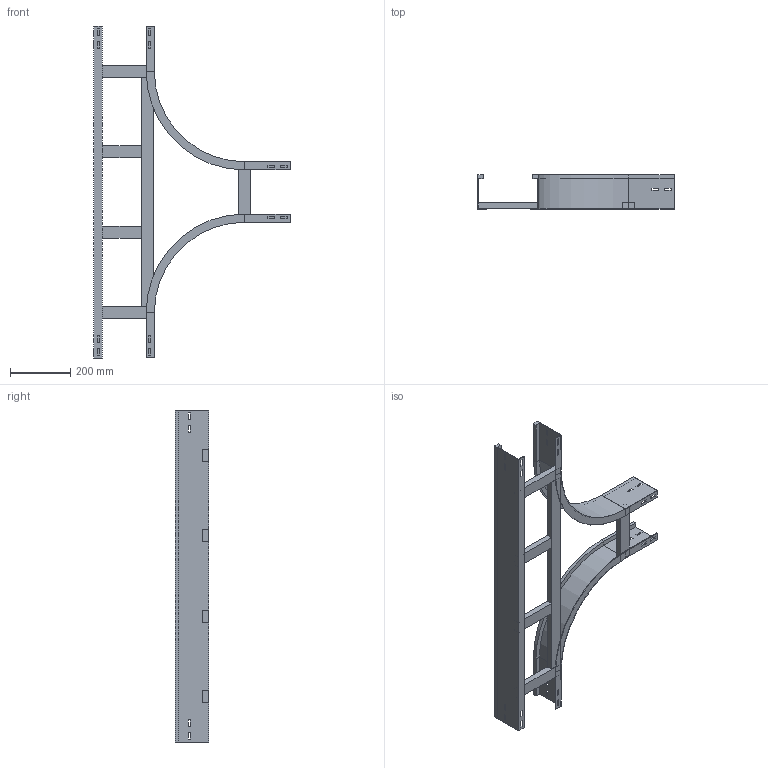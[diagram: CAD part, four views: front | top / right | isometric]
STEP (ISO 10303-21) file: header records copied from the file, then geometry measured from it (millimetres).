
FILE_DESCRIPTION (( 'STEP AP214' ), '1' );
FILE_NAME ('A2_15B3J200.step', '2025-02-21T15:51:21', ( '' ), ( '' ), 'SwSTEP 2.0', 'SolidWorks 2023', '' );
FILE_SCHEMA (( 'AUTOMOTIVE_DESIGN' ));
Length unit declared in the file: millimetre
Products named in the file (6): A2_LONGH.INTERNO 90°_H112.5_R300; A2_TRAVERSINO_LONG._R300+200; A2_15B3J200; TRAVERSINO_INTERMEDIO_R300+200; TRAVERSINO_200; A2_LONGH.RETT_H112.5_R300+200
Assembly tree (9 placements, depth 2):
  A2_15B3J200
    A2_LONGH.INTERNO 90°_H112.5_R300  x2
    A2_LONGH.RETT_H112.5_R300+200
    TRAVERSINO_200  x3
    A2_TRAVERSINO_LONG._R300+200
    TRAVERSINO_INTERMEDIO_R300+200  x2
Bounding box: 650 x 112.5 x 1100 mm (x, y, z)
Volume: 2579046.5 mm3; surface area: 1035165.7 mm2
Topology: 9 solids, 9 shells, 194 faces, 496 edges, 320 vertices
Faces by surface type: plane 186, cylinder 8
Entity records: 3815 total; most frequent: CARTESIAN_POINT 638, ORIENTED_EDGE 616, DIRECTION 576, EDGE_CURVE 308, VECTOR 300, LINE 300, VERTEX_POINT 200, EDGE_LOOP 150
